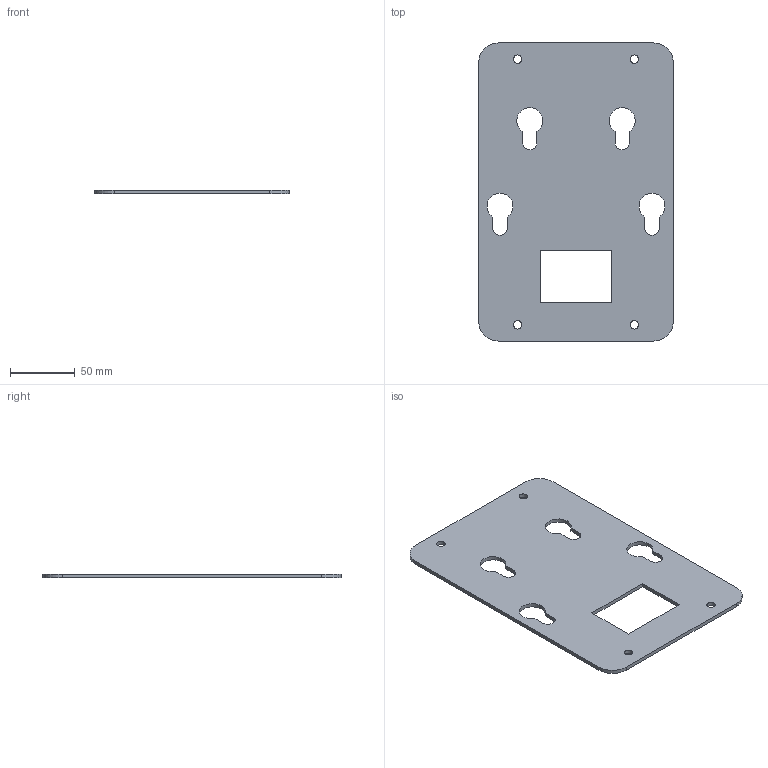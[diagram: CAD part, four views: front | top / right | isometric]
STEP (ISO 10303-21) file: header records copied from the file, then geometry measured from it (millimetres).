
FILE_DESCRIPTION(('STEP AP214'),'1');
FILE_NAME('CA.01.01.016.F.stp','2018-09-24T13:25:06',(' '),(' '),'Spatial InterOp 3D',' ',' ');
FILE_SCHEMA(('AUTOMOTIVE_DESIGN { 1 0 10303 214 1 1 1 1 }'));
Length unit declared in the file: millimetre
Products named in the file (1): 01.01.016.F
Bounding box: 150 x 230 x 3 mm (x, y, z)
Volume: 90523.1 mm3; surface area: 64398.9 mm2
Topology: 1 solids, 1 shells, 34 faces, 96 edges, 64 vertices
Faces by surface type: plane 18, cylinder 16
Full cylindrical faces by diameter (mm): 6.5 x4
Entity records: 1416 total; most frequent: DIRECTION 194, CARTESIAN_POINT 191, ORIENTED_EDGE 184, EDGE_CURVE 92, AXIS2_PLACEMENT_3D 67, VERTEX_POINT 64, LINE 60, VECTOR 60
